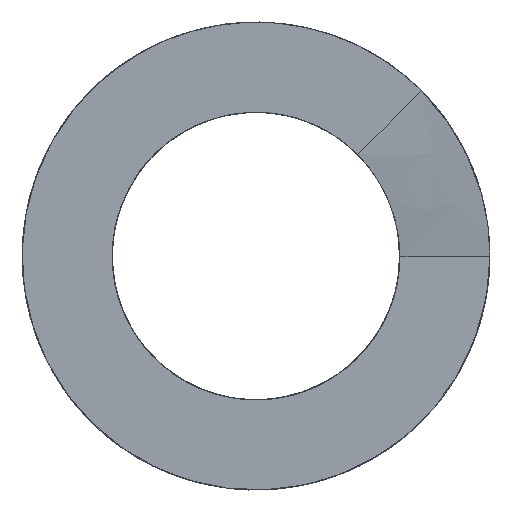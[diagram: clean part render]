
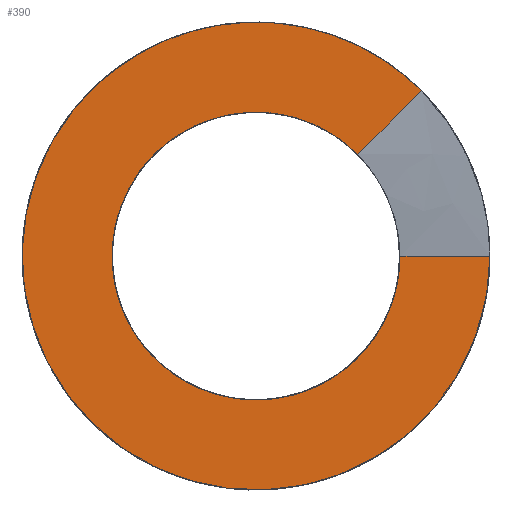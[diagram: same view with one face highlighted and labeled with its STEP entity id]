
A CAD part, front view. The second image highlights one B-rep face of the part: STEP entity #390.
In plain terms, the highlighted planar face has unit normal (0, -1, 0).
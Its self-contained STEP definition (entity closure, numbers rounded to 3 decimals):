
#36=LINE('',#2255,#44);
#44=VECTOR('',#461,10.);
#74=B_SPLINE_CURVE_WITH_KNOTS('',3,(#1722,#1723,#1724,#1725,#1726,#1727,
#1728,#1729,#1730,#1731,#1732,#1733,#1734,#1735,#1736,#1737,#1738,#1739,
#1740,#1741,#1742,#1743,#1744,#1745,#1746,#1747,#1748,#1749,#1750,#1751,
#1752,#1753,#1754,#1755,#1756,#1757,#1758,#1759,#1760,#1761),
 .UNSPECIFIED.,.F.,.F.,(4,2,2,2,2,2,2,2,2,2,2,2,2,2,2,2,2,2,2,4),(-2.645,
-2.5,-2.355,-2.261,-2.091,
-1.939,-1.805,-1.691,-1.617,
-1.579,-1.554,-1.5,-1.313,
-1.125,-0.938,-0.75,-0.563,
-0.375,-0.188,0.),.UNSPECIFIED.);
#83=B_SPLINE_CURVE_WITH_KNOTS('',3,(#2157,#2158,#2159,#2160,#2161,#2162,
#2163,#2164,#2165,#2166,#2167,#2168,#2169,#2170,#2171,#2172,#2173,#2174,
#2175,#2176,#2177,#2178,#2179,#2180,#2181,#2182,#2183,#2184,#2185,#2186,
#2187,#2188,#2189,#2190,#2191,#2192,#2193,#2194),.UNSPECIFIED.,.F.,.F.,
(4,2,2,2,2,2,2,2,2,2,2,2,2,2,2,2,2,2,4),(-4.3,-3.996,
-3.691,-3.386,-3.082,-2.777,
-2.472,-2.168,-1.863,-1.802,
-1.756,-1.71,-1.643,-1.345,
-1.141,-0.918,-0.609,-0.305,
0.),.UNSPECIFIED.);
#89=B_SPLINE_CURVE_WITH_KNOTS('',3,(#2249,#2250,#2251,#2252,#2253,#2254),
 .UNSPECIFIED.,.F.,.F.,(4,2,4),(-0.3,-0.15,0.),.UNSPECIFIED.);
#114=FACE_OUTER_BOUND('',#140,.T.);
#140=EDGE_LOOP('',(#335,#336,#337,#338));
#171=VERTEX_POINT('',#1457);
#178=VERTEX_POINT('',#1717);
#181=VERTEX_POINT('',#1858);
#186=VERTEX_POINT('',#2156);
#224=EDGE_CURVE('',#178,#171,#74,.T.);
#235=EDGE_CURVE('',#181,#186,#83,.T.);
#242=EDGE_CURVE('',#186,#178,#89,.T.);
#243=EDGE_CURVE('',#171,#181,#36,.T.);
#335=ORIENTED_EDGE('',*,*,#242,.F.);
#336=ORIENTED_EDGE('',*,*,#235,.F.);
#337=ORIENTED_EDGE('',*,*,#243,.F.);
#338=ORIENTED_EDGE('',*,*,#224,.F.);
#372=PLANE('',#429);
#390=ADVANCED_FACE('',(#114),#372,.F.);
#429=AXIS2_PLACEMENT_3D('',#2248,#459,#460);
#459=DIRECTION('center_axis',(0.,1.,0.));
#460=DIRECTION('ref_axis',(0.,0.,1.));
#461=DIRECTION('',(1.,0.,0.));
#1457=CARTESIAN_POINT('',(4.8,0.,0.));
#1717=CARTESIAN_POINT('',(3.394,0.,3.394));
#1722=CARTESIAN_POINT('Ctrl Pts',(3.394,0.,
3.394));
#1723=CARTESIAN_POINT('Ctrl Pts',(3.051,0.,
3.737));
#1724=CARTESIAN_POINT('Ctrl Pts',(2.658,0.,
4.026));
#1725=CARTESIAN_POINT('Ctrl Pts',(1.8,0.,
4.476));
#1726=CARTESIAN_POINT('Ctrl Pts',(1.339,0.,
4.635));
#1727=CARTESIAN_POINT('Ctrl Pts',(0.555,0.,
4.778));
#1728=CARTESIAN_POINT('Ctrl Pts',(0.244,0.,
4.804));
#1729=CARTESIAN_POINT('Ctrl Pts',(-0.635,0.,
4.792));
#1730=CARTESIAN_POINT('Ctrl Pts',(-1.195,0.,
4.683));
#1731=CARTESIAN_POINT('Ctrl Pts',(-2.197,0.,
4.298));
#1732=CARTESIAN_POINT('Ctrl Pts',(-2.638,0.,
4.042));
#1733=CARTESIAN_POINT('Ctrl Pts',(-3.378,0.,
3.439));
#1734=CARTESIAN_POINT('Ctrl Pts',(-3.685,0.,
3.109));
#1735=CARTESIAN_POINT('Ctrl Pts',(-4.157,0.,
2.43));
#1736=CARTESIAN_POINT('Ctrl Pts',(-4.335,0.,2.095));
#1737=CARTESIAN_POINT('Ctrl Pts',(-4.562,0.,1.512));
#1738=CARTESIAN_POINT('Ctrl Pts',(-4.634,0.,
1.276));
#1739=CARTESIAN_POINT('Ctrl Pts',(-4.714,0.,
0.912));
#1740=CARTESIAN_POINT('Ctrl Pts',(-4.737,0.,
0.787));
#1741=CARTESIAN_POINT('Ctrl Pts',(-4.766,0.,
0.578));
#1742=CARTESIAN_POINT('Ctrl Pts',(-4.775,0.,
0.493));
#1743=CARTESIAN_POINT('Ctrl Pts',(-4.798,0.,
0.23));
#1744=CARTESIAN_POINT('Ctrl Pts',(-4.803,0.,0.052));
#1745=CARTESIAN_POINT('Ctrl Pts',(-4.782,0.,-0.751));
#1746=CARTESIAN_POINT('Ctrl Pts',(-4.644,0.,-1.366));
#1747=CARTESIAN_POINT('Ctrl Pts',(-4.139,0.,-2.51));
#1748=CARTESIAN_POINT('Ctrl Pts',(-3.777,0.,-3.027));
#1749=CARTESIAN_POINT('Ctrl Pts',(-2.876,0.,-3.893));
#1750=CARTESIAN_POINT('Ctrl Pts',(-2.345,0.,-4.234));
#1751=CARTESIAN_POINT('Ctrl Pts',(-1.183,0.,-4.694));
#1752=CARTESIAN_POINT('Ctrl Pts',(-0.562,0.,-4.808));
#1753=CARTESIAN_POINT('Ctrl Pts',(0.688,0.,-4.791));
#1754=CARTESIAN_POINT('Ctrl Pts',(1.305,0.,-4.661));
#1755=CARTESIAN_POINT('Ctrl Pts',(2.456,0.,-4.171));
#1756=CARTESIAN_POINT('Ctrl Pts',(2.977,0.,-3.817));
#1757=CARTESIAN_POINT('Ctrl Pts',(3.855,0.,-2.927));
#1758=CARTESIAN_POINT('Ctrl Pts',(4.203,0.,-2.401));
#1759=CARTESIAN_POINT('Ctrl Pts',(4.678,0.,-1.244));
#1760=CARTESIAN_POINT('Ctrl Pts',(4.8,0.,-0.625));
#1761=CARTESIAN_POINT('Ctrl Pts',(4.8,0.,0.));
#1858=CARTESIAN_POINT('',(7.8,0.,0.));
#2156=CARTESIAN_POINT('',(5.515,0.,5.515));
#2157=CARTESIAN_POINT('Ctrl Pts',(7.8,0.,0.));
#2158=CARTESIAN_POINT('Ctrl Pts',(7.8,0.,-1.015));
#2159=CARTESIAN_POINT('Ctrl Pts',(7.602,0.,-2.021));
#2160=CARTESIAN_POINT('Ctrl Pts',(6.831,0.,-3.899));
#2161=CARTESIAN_POINT('Ctrl Pts',(6.266,0.,-4.755));
#2162=CARTESIAN_POINT('Ctrl Pts',(4.839,0.,-6.201));
#2163=CARTESIAN_POINT('Ctrl Pts',(3.992,0.,-6.778));
#2164=CARTESIAN_POINT('Ctrl Pts',(2.123,0.,-7.574));
#2165=CARTESIAN_POINT('Ctrl Pts',(1.12,0.,-7.786));
#2166=CARTESIAN_POINT('Ctrl Pts',(-0.912,0.,-7.813));
#2167=CARTESIAN_POINT('Ctrl Pts',(-1.92,0.,-7.628));
#2168=CARTESIAN_POINT('Ctrl Pts',(-3.809,0.,-6.882));
#2169=CARTESIAN_POINT('Ctrl Pts',(-4.672,0.,-6.328));
#2170=CARTESIAN_POINT('Ctrl Pts',(-6.137,0.,-4.92));
#2171=CARTESIAN_POINT('Ctrl Pts',(-6.725,0.,-4.08));
#2172=CARTESIAN_POINT('Ctrl Pts',(-7.545,0.,-2.222));
#2173=CARTESIAN_POINT('Ctrl Pts',(-7.77,0.,-1.222));
#2174=CARTESIAN_POINT('Ctrl Pts',(-7.803,0.,-0.003));
#2175=CARTESIAN_POINT('Ctrl Pts',(-7.8,0.,
0.201));
#2176=CARTESIAN_POINT('Ctrl Pts',(-7.782,0.,
0.557));
#2177=CARTESIAN_POINT('Ctrl Pts',(-7.769,0.,
0.709));
#2178=CARTESIAN_POINT('Ctrl Pts',(-7.736,0.,
1.013));
#2179=CARTESIAN_POINT('Ctrl Pts',(-7.714,0.,
1.164));
#2180=CARTESIAN_POINT('Ctrl Pts',(-7.651,0.,
1.535));
#2181=CARTESIAN_POINT('Ctrl Pts',(-7.604,0.,
1.753));
#2182=CARTESIAN_POINT('Ctrl Pts',(-7.296,0.,
2.932));
#2183=CARTESIAN_POINT('Ctrl Pts',(-6.863,0.,
3.839));
#2184=CARTESIAN_POINT('Ctrl Pts',(-5.867,0.,
5.184));
#2185=CARTESIAN_POINT('Ctrl Pts',(-5.394,0.,
5.675));
#2186=CARTESIAN_POINT('Ctrl Pts',(-4.281,0.,
6.563));
#2187=CARTESIAN_POINT('Ctrl Pts',(-3.636,0.,
6.941));
#2188=CARTESIAN_POINT('Ctrl Pts',(-1.995,0.,
7.61));
#2189=CARTESIAN_POINT('Ctrl Pts',(-0.976,0.,
7.807));
#2190=CARTESIAN_POINT('Ctrl Pts',(1.067,0.,
7.793));
#2191=CARTESIAN_POINT('Ctrl Pts',(2.071,0.,
7.588));
#2192=CARTESIAN_POINT('Ctrl Pts',(3.946,0.,
6.805));
#2193=CARTESIAN_POINT('Ctrl Pts',(4.797,0.,
6.234));
#2194=CARTESIAN_POINT('Ctrl Pts',(5.515,0.,
5.515));
#2248=CARTESIAN_POINT('Origin',(0.,0.,0.));
#2249=CARTESIAN_POINT('Ctrl Pts',(5.515,0.,
5.515));
#2250=CARTESIAN_POINT('Ctrl Pts',(5.162,0.,
5.162));
#2251=CARTESIAN_POINT('Ctrl Pts',(4.808,0.,
4.808));
#2252=CARTESIAN_POINT('Ctrl Pts',(4.101,0.,
4.101));
#2253=CARTESIAN_POINT('Ctrl Pts',(3.748,0.,3.748));
#2254=CARTESIAN_POINT('Ctrl Pts',(3.394,0.,3.394));
#2255=CARTESIAN_POINT('',(3.15,0.,0.));
